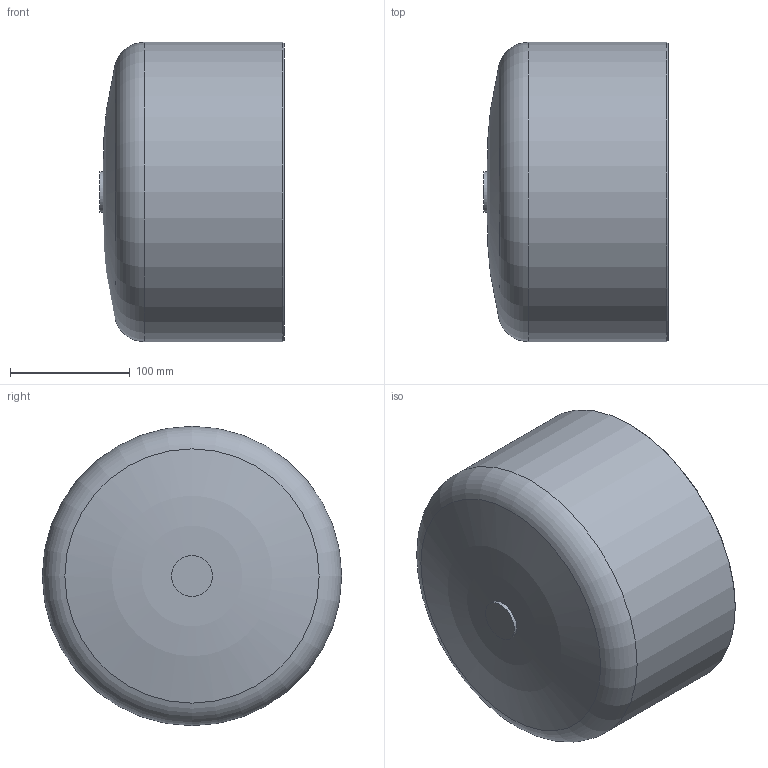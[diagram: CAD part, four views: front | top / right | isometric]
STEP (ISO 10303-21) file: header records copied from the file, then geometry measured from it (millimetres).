
FILE_DESCRIPTION(/* description */ ('Unknown'),/* implementation_level */ '2;1');
FILE_NAME(/* name */ 'CAP250C',/* time_stamp */ '2021-02-04T10:10:21+01:00',/* author */ ('Unknown'),/* organization */ ('Unknown'),/* preprocessor_version */ 'ST-DEVELOPER v16.7',/* originating_system */ 'Solid Edge',/* authorisation */ 'Unknown');
FILE_SCHEMA (('AUTOMOTIVE_DESIGN {1 0 10303 214 3 1 1}'));
Length unit declared in the file: millimetre
Products named in the file (1): CAP250C
Bounding box: 154 x 250 x 250 mm (x, y, z)
Volume: 3046704 mm3; surface area: 274634 mm2
Topology: 1 solids, 1 shells, 11 faces, 21 edges, 12 vertices
Faces by surface type: torus 4, cylinder 3, cone 2, plane 2
Full cylindrical faces by diameter (mm): 34 x1, 204.6 x1, 250 x1
Entity records: 248 total; most frequent: DIRECTION 44, CARTESIAN_POINT 33, AXIS2_PLACEMENT_3D 22, FACE_BOUND 21, ORIENTED_EDGE 20, EDGE_LOOP 20, VERTEX_POINT 11, ADVANCED_FACE 11
